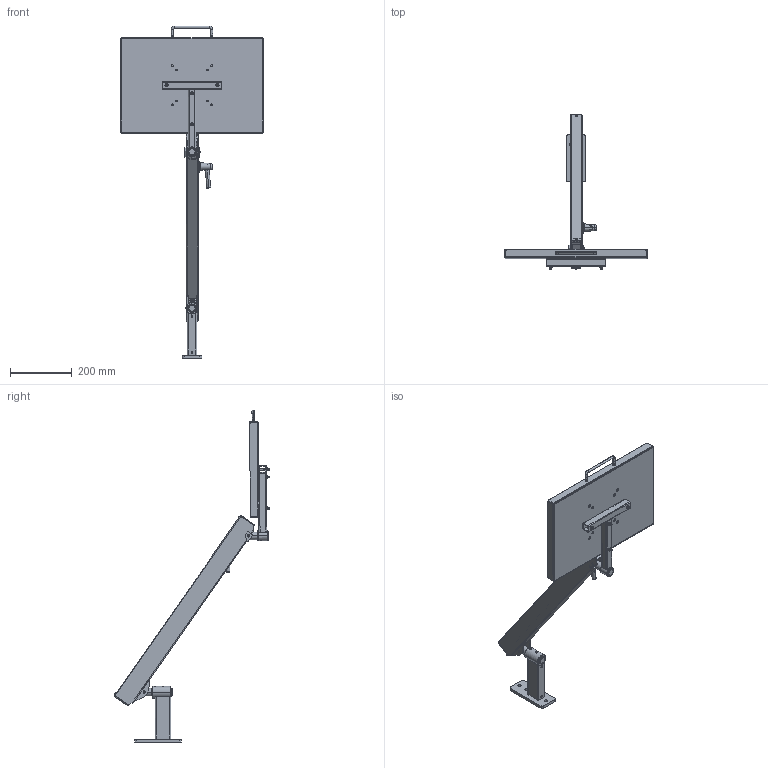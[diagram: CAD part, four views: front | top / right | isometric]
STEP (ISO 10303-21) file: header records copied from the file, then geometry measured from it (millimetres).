
FILE_DESCRIPTION (( 'STEP AP203' ), '1' );
FILE_NAME ('70-0724-00 REV AA, 24in FLEX SYSTEM, TOOL TRAY, WALL MOUNT W EXT - ANGLE DOWN.STEP', '2025-09-15T22:49:11', ( '' ), ( '' ), 'SwSTEP 2.0', 'SolidWorks 2025', '' );
FILE_SCHEMA (( 'CONFIG_CONTROL_DESIGN' ));
Length unit declared in the file: inch
Products named in the file (52): 71-0029-RX REV AA, TAB, LOAD; 71-0030-RX REV AA, KNUCKLE, LOAD_MACHINE; 016-008-00, OILITE PLUS BEARING, 0.876 id x 1.002 od x 1.25 lg; 004-050-00, WASHER, FIBER, .032 THK, .265ID; 70-0050-00 REV AA, T BAR; 016-007-00, OILITE PLUS BEARING, 0.876 id x 1.002 od x 0.75 lg; 11-0601-99 REV AA, CONICAL KNOB, BRAKE ASSEMBLY; 70-2424-00 REV AA,  FLEX SECTION, 24in, 3-24 LB; 11-0401-00 REV AA, 18x12 TOOL TRAY, BLACK; 71-0028-RX REV AA, TAB, MOUNT_MACHINE; 11-0650-00 REV AA, BRAKE HANDLE ASSEMBLY; 70-0401-00 REV AA, 18x12 SUPPORT TRAY ASSEMBLY; 002-041-00_002-041-00; 006-004-00_006-004-00; 11-0450-00 REV AA, FOAM, YELLOW, 18x12; 016-070-00, BEARING, PLASTIC, .5ID x .625 OD x .75; 71-3033-99 REV AA, BOLT, ADJUSTING, 15.250; 005-084-00, BOLT, 1''4-20x2.75; 004-144-00; 007-031-00_007-031-00; 71-3032-RX REV AA, SPRING ROD, 24in FLEX; 007-036-00, SHSS, 1''4-28, .25L_007-036-00; 002-091-00, FHSCS, 10-32x1.5, BO_002-091-00; 71-0047-RX REV AA, HOUSING, T AND STRAIGHT BAR_MACHINE; 71-0052-RX REV AA, HOUSING, T AND STRAIGHT BAR CROSS SECTION_MACHINE; 71-1051-RX REV AA, SPRING BLOCK; 011-020-00 REV AA, PIN, KNURLED, 1.0LG x .25OD; 006-059-00; 010-011-00, RETAINING RING, EXT, .250 SHAFT_010-011-00; 11-0027-RX REV AA, PLASTIC DISC, BRAKE ASSEMBLY_MACHINE; 013-037-00, SPRING, GREEN, 1x12; 11-0602-RX REV AA, HANDLE, BRAKE ASSEMBLY; 010-012-00, RETAINING RING, EXTERNAL, .875in SHAFT; 71-0037-RX REV AA, PIVOT, THREADED; 71-0091-RX REV AA, HOUSING, WALL MOUNT, 6in EXTENSION; 71-0039-RX REV AA, BRAKE BLOCK_MACHINE; 71-0013-RX REV AA, HOUSING, BEARING, SHORT_MACHINE; 71-0217-RX REV AA, PLATE, NARROW WALL MOUNT_Laser; 71-2113-RX REV AA, HOUSING, BEARING, TALL, 1.5OD_MACHINE; 71-2401-BLKX REV AA, FLEX HOUSING, 24in, BLACK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
Assembly tree (80 placements, depth 4):
  70-0724-00 REV AA, 24in FLEX SYSTEM, TOOL TRAY, WALL MOUNT W EXT - ANGLE DOWN
    70-0095-00 REV AA, STUD MOUNT, 6in EXT
      71-0217-RX REV AA, PLATE, NARROW WALL MOUNT_Laser
      71-0091-RX REV AA, HOUSING, WALL MOUNT, 6in EXTENSION
      71-2113-RX REV AA, HOUSING, BEARING, TALL, 1.5OD_MACHINE
      016-007-00, OILITE PLUS BEARING, 0.876 id x 1.002 od x 0.75 lg
      016-008-00, OILITE PLUS BEARING, 0.876 id x 1.002 od x 1.25 lg
      007-036-00, SHSS, 1''4-28, .25L_007-036-00
    70-2424-00 REV AA,  FLEX SECTION, 24in, 3-24 LB
      71-0031-RX REV AA, KNUCKLE, MOUNT_MACHINE
      71-1051-RX REV AA, SPRING BLOCK
      71-3032-RX REV AA, SPRING ROD, 24in FLEX
      71-0030-RX REV AA, KNUCKLE, LOAD_MACHINE
      71-0038-RX REV AA, PIVOT, KNUCKLE, ELECTROLESS NICKEL
      71-0037-RX REV AA, PIVOT, THREADED
      71-0039-RX REV AA, BRAKE BLOCK_MACHINE
      71-3033-99 REV AA, BOLT, ADJUSTING, 15.250
      71-2401-BLKX REV AA, FLEX HOUSING, 24in, BLACK
        71-2400-RX REV AA, HOUSING, 24in FLEX
        71-0029-RX REV AA, TAB, LOAD  x2
        71-0028-RX REV AA, TAB, MOUNT_MACHINE  x2
      71-0070-RX REV AA, AXLE PIN, SHORT
      71-0071-RX REV AA, AXLE PIN, LONG
      010-012-00, RETAINING RING, EXTERNAL, .875in SHAFT  x2
      71-0972-99 REV AA, END CAP, FLEX  x2
      11-0027-RX REV AA, PLASTIC DISC, BRAKE ASSEMBLY_MACHINE
      11-0650-00 REV AA, BRAKE HANDLE ASSEMBLY
        11-0601-99 REV AA, CONICAL KNOB, BRAKE ASSEMBLY
        11-0602-RX REV AA, HANDLE, BRAKE ASSEMBLY
        11-0027-RX REV AA, PLASTIC DISC, BRAKE ASSEMBLY_MACHINE
        005-084-00, BOLT, 1''4-20x2.75
      010-011-00, RETAINING RING, EXT, .250 SHAFT_010-011-00  x4
      016-070-00, BEARING, PLASTIC, .5ID x .625 OD x .75  x2
      004-050-00, WASHER, FIBER, .032 THK, .265ID  x8
      011-033-00
      011-020-00 REV AA, PIN, KNURLED, 1.0LG x .25OD  x2
      004-144-00  x3
      006-059-00
      013-037-00, SPRING, GREEN, 1x12
      006-004-00_006-004-00  x2
      002-041-00_002-041-00  x2
    70-0401-00 REV AA, 18x12 SUPPORT TRAY ASSEMBLY
      11-0401-00 REV AA, 18x12 TOOL TRAY, BLACK
      70-0050-00 REV AA, T BAR
        71-0047-RX REV AA, HOUSING, T AND STRAIGHT BAR_MACHINE
        71-0013-RX REV AA, HOUSING, BEARING, SHORT_MACHINE
        71-0052-RX REV AA, HOUSING, T AND STRAIGHT BAR CROSS SECTION_MACHINE
        016-008-00, OILITE PLUS BEARING, 0.876 id x 1.002 od x 1.25 lg
        007-031-00_007-031-00
      002-091-00, FHSCS, 10-32x1.5, BO_002-091-00  x4
      006-008-00, NUT, HEX, 10-32 x .125_006-008-00  x4
      025-067-00, HANDLE, U SHAPED, 8-32
      002-100-00, BHSCS, 8-32x.375_002-100-00  x2
      11-0450-00 REV AA, FOAM, YELLOW, 18x12
Bounding box: 461.77 x 505.06 x 1078.18 mm (x, y, z)
Volume: 1826025.9 mm3; surface area: 1278283.6 mm2
Topology: 76 solids, 76 shells, 2042 faces, 4954 edges, 3063 vertices
Faces by surface type: cylinder 907, plane 561, cone 423, torus 89, bspline 52, sphere 10
Entity records: 82292 total; most frequent: CARTESIAN_POINT 46741, ORIENTED_EDGE 6134, DIRECTION 6077, EDGE_CURVE 3067, AXIS2_PLACEMENT_3D 2354, VERTEX_POINT 1907, EDGE_LOOP 1422, VECTOR 1369
